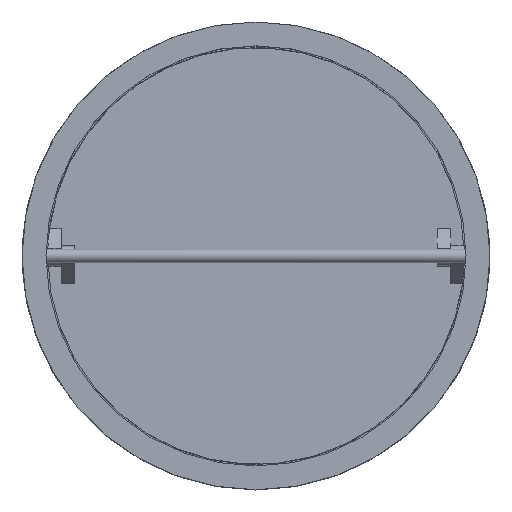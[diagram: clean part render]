
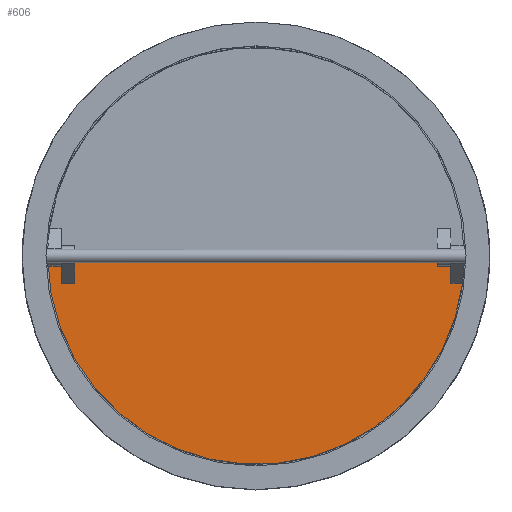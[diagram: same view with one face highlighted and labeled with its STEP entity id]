
A CAD part, top view. The second image highlights one B-rep face of the part: STEP entity #606.
In plain terms, the highlighted planar face has unit normal (0, 0, 1).
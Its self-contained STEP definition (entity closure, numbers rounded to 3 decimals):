
#606=ADVANCED_FACE('',(#1177),#1179,.T.);
#1177=FACE_BOUND('',#1178,.T.);
#1178=EDGE_LOOP('',(#1583,#1584,#1585,#1586,#1587,#1588,#1589,#1590));
#1179=PLANE('',#1180);
#1180=AXIS2_PLACEMENT_3D('',#1181,#1182,#1183);
#1181=CARTESIAN_POINT('',(0.,0.,68.));
#1182=DIRECTION('',(0.,0.,1.));
#1183=DIRECTION('',(0.,1.,0.));
#1583=ORIENTED_EDGE('',*,*,#1824,.F.);
#1584=ORIENTED_EDGE('',*,*,#1825,.F.);
#1585=ORIENTED_EDGE('',*,*,#1771,.T.);
#1586=ORIENTED_EDGE('',*,*,#1781,.T.);
#1587=ORIENTED_EDGE('',*,*,#1826,.F.);
#1588=ORIENTED_EDGE('',*,*,#1827,.F.);
#1589=ORIENTED_EDGE('',*,*,#1775,.T.);
#1590=ORIENTED_EDGE('',*,*,#1828,.F.);
#1771=EDGE_CURVE('',#2058,#2056,#2059,.T.);
#1775=EDGE_CURVE('',#2066,#2064,#2067,.T.);
#1781=EDGE_CURVE('',#2056,#2075,#2077,.T.);
#1824=EDGE_CURVE('',#2145,#2146,#2147,.T.);
#1825=EDGE_CURVE('',#2058,#2145,#2148,.T.);
#1826=EDGE_CURVE('',#2149,#2075,#2150,.T.);
#1827=EDGE_CURVE('',#2066,#2149,#2151,.T.);
#1828=EDGE_CURVE('',#2146,#2064,#2152,.F.);
#2056=VERTEX_POINT('',#3701);
#2058=VERTEX_POINT('',#3705);
#2059=LINE('',#3706,#3707);
#2064=VERTEX_POINT('',#3717);
#2066=VERTEX_POINT('',#3721);
#2067=LINE('',#3722,#3723);
#2075=VERTEX_POINT('',#3787);
#2077=CIRCLE('',#3792,309.5);
#2145=VERTEX_POINT('',#4127);
#2146=VERTEX_POINT('',#4128);
#2147=LINE('',#4129,#4130);
#2148=LINE('',#4132,#4133);
#2149=VERTEX_POINT('',#4135);
#2150=LINE('',#4136,#4137);
#2151=LINE('',#4139,#4140);
#2152=LINE('',#4142,#4143);
#3701=CARTESIAN_POINT('',(-309.474,-4.,68.));
#3705=CARTESIAN_POINT('',(-289.526,-4.,68.));
#3706=CARTESIAN_POINT('',(-289.526,-4.,68.));
#3707=VECTOR('',#3708,1.);
#3708=DIRECTION('',(-1.,0.,0.));
#3717=CARTESIAN_POINT('',(-269.526,-4.,68.));
#3721=CARTESIAN_POINT('',(289.474,-4.,68.));
#3722=CARTESIAN_POINT('',(289.474,-4.,68.));
#3723=VECTOR('',#3724,1.);
#3724=DIRECTION('',(-1.,0.,0.));
#3787=CARTESIAN_POINT('',(306.831,-40.559,68.));
#3792=AXIS2_PLACEMENT_3D('',#3793,#3794,#3795);
#3793=CARTESIAN_POINT('',(0.,0.,68.));
#3794=DIRECTION('',(0.,0.,1.));
#3795=DIRECTION('',(-1.,-0.013,0.));
#4127=CARTESIAN_POINT('',(-289.526,-40.559,68.));
#4128=CARTESIAN_POINT('',(-269.526,-40.559,68.));
#4129=CARTESIAN_POINT('',(-289.526,-40.559,68.));
#4130=VECTOR('',#4131,1.);
#4131=DIRECTION('',(1.,0.,0.));
#4132=CARTESIAN_POINT('',(-289.526,-4.,68.));
#4133=VECTOR('',#4134,1.);
#4134=DIRECTION('',(0.,-1.,0.));
#4135=CARTESIAN_POINT('',(289.474,-40.559,68.));
#4136=CARTESIAN_POINT('',(289.474,-40.559,68.));
#4137=VECTOR('',#4138,1.);
#4138=DIRECTION('',(1.,0.,0.));
#4139=CARTESIAN_POINT('',(289.474,-4.,68.));
#4140=VECTOR('',#4141,1.);
#4141=DIRECTION('',(0.,-1.,0.));
#4142=CARTESIAN_POINT('',(-269.526,-4.,68.));
#4143=VECTOR('',#4144,1.);
#4144=DIRECTION('',(0.,-1.,0.));
